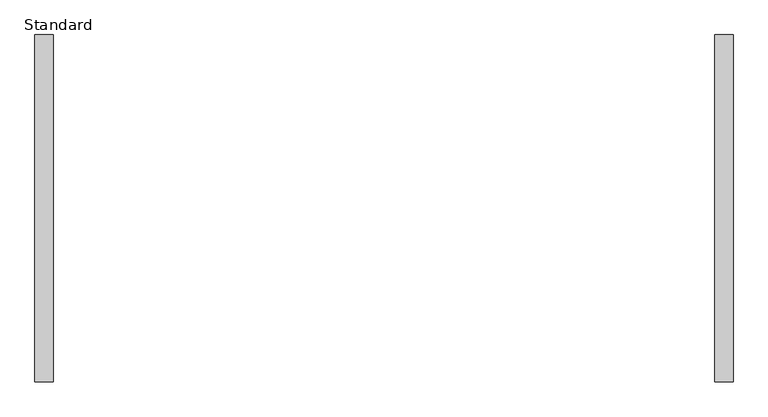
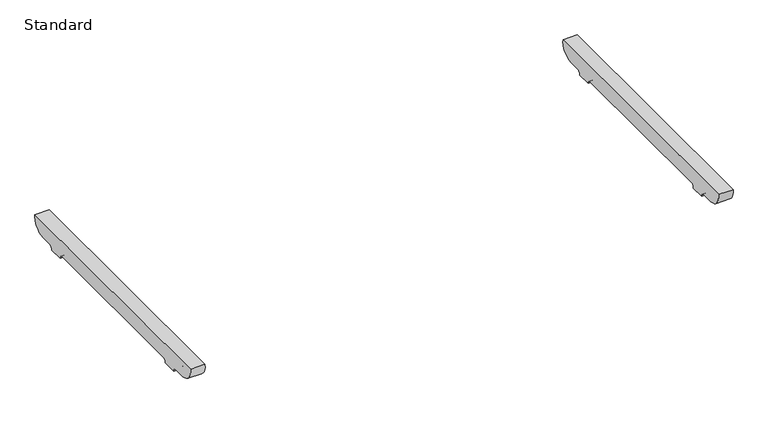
"""IFC4 building model written with IfcOpenShell, lengths in millimetres: furniture geometry, BDG_BossDesign_Tbls_AgentTables4Legs_Nested : Standard."""

from ifc_helpers import new_model, si_unit, point, frame, frame_2d, origin, place, context, project, spatial, polyline, circle_curve, trimmed, segment, composite_curve, outline, extrude, source, transform, mapped, element, save


def standard_55bfc8dd(model_context):
    return source(origin(), model_context, "Body", "SweptSolid", [
        extrude(outline(composite_curve([segment(polyline([(380.5450184, 672.0), (342.7000122, 672.0)]), True, "CONTINUOUS"), segment(trimmed(circle_curve(frame_2d((342.7000122, 660.0)), 12.0), [point((342.7000122, 672.0))], [point((330.7000122, 660.0))], True, "CARTESIAN"), True, "CONTINUOUS"), segment(polyline([(330.7000122, 660.0), (285.7000122, 660.0)]), True, "CONTINUOUS"), segment(trimmed(circle_curve(frame_2d((273.7000122, 660.0)), 12.0), [point((285.7000122, 660.0))], [point((273.7000122, 672.0))], True, "CARTESIAN"), True, "CONTINUOUS"), segment(polyline([(273.7000122, 672.0), (-273.7000122, 672.0)]), True, "CONTINUOUS"), segment(trimmed(circle_curve(frame_2d((-273.7000122, 660.0)), 12.0), [point((-273.7000122, 672.0))], [point((-285.7000122, 660.0))], True, "CARTESIAN"), True, "CONTINUOUS"), segment(polyline([(-285.7000122, 660.0), (-330.7000122, 660.0)]), True, "CONTINUOUS"), segment(trimmed(circle_curve(frame_2d((-342.7000122, 660.0)), 12.0), [point((-330.7000122, 660.0))], [point((-342.7000122, 672.0))], True, "CARTESIAN"), True, "CONTINUOUS"), segment(polyline([(-342.7000122, 672.0), (-380.5450184, 672.0)]), True, "CONTINUOUS"), segment(trimmed(circle_curve(frame_2d((-378.2220439, 716.5514119)), 44.6119324), [point((-380.5450184, 672.0))], [point((-422.5, 722.0))], False, "CARTESIAN"), True, "CONTINUOUS"), segment(polyline([(-422.5, 722.0), (422.5, 722.0)]), True, "CONTINUOUS"), segment(trimmed(circle_curve(frame_2d((378.2220439, 716.5514119)), 44.6119324), [point((422.5, 722.0))], [point((380.5450184, 672.0))], False, "CARTESIAN"), True, "CONTINUOUS")], self_intersect=False)), frame((805.0, 0.0, 0.0), z_axis=(1.0, 0.0, 0.0), x_axis=(0.0, 1.0, 0.0)), (0.0, 0.0, 1.0), 45.0),
        extrude(outline(composite_curve([segment(polyline([(380.5450184, 672.0), (342.7000122, 672.0)]), True, "CONTINUOUS"), segment(trimmed(circle_curve(frame_2d((342.7000122, 660.0)), 12.0), [point((342.7000122, 672.0))], [point((330.7000122, 660.0))], True, "CARTESIAN"), True, "CONTINUOUS"), segment(polyline([(330.7000122, 660.0), (285.7000122, 660.0)]), True, "CONTINUOUS"), segment(trimmed(circle_curve(frame_2d((273.7000122, 660.0)), 12.0), [point((285.7000122, 660.0))], [point((273.7000122, 672.0))], True, "CARTESIAN"), True, "CONTINUOUS"), segment(polyline([(273.7000122, 672.0), (-273.7000122, 672.0)]), True, "CONTINUOUS"), segment(trimmed(circle_curve(frame_2d((-273.7000122, 660.0)), 12.0), [point((-273.7000122, 672.0))], [point((-285.7000122, 660.0))], True, "CARTESIAN"), True, "CONTINUOUS"), segment(polyline([(-285.7000122, 660.0), (-330.7000122, 660.0)]), True, "CONTINUOUS"), segment(trimmed(circle_curve(frame_2d((-342.7000122, 660.0)), 12.0), [point((-330.7000122, 660.0))], [point((-342.7000122, 672.0))], True, "CARTESIAN"), True, "CONTINUOUS"), segment(polyline([(-342.7000122, 672.0), (-380.5450184, 672.0)]), True, "CONTINUOUS"), segment(trimmed(circle_curve(frame_2d((-378.2220439, 716.5514119)), 44.6119324), [point((-380.5450184, 672.0))], [point((-422.5, 722.0))], False, "CARTESIAN"), True, "CONTINUOUS"), segment(polyline([(-422.5, 722.0), (422.5, 722.0)]), True, "CONTINUOUS"), segment(trimmed(circle_curve(frame_2d((378.2220439, 716.5514119)), 44.6119324), [point((422.5, 722.0))], [point((380.5450184, 672.0))], False, "CARTESIAN"), True, "CONTINUOUS")], self_intersect=False)), frame((-850.0, 0.0, 0.0), z_axis=(1.0, 0.0, 0.0), x_axis=(0.0, 1.0, 0.0)), (0.0, 0.0, 1.0), 45.0),
    ])


if __name__ == "__main__":
    model = new_model("IFC4")
    model_context = context("Model", 3, world=origin())
    ifc_project = project(units=[si_unit("LENGTHUNIT", "METRE", prefix="MILLI")], contexts=[model_context])
    site = spatial("IfcSite", under=ifc_project)
    building = spatial("IfcBuilding", under=site)
    placement = place(None, origin())
    standard_shape = standard_55bfc8dd(model_context)
    element("IfcFurniture", 1, ObjectType="BDG_BossDesign_Tbls_AgentTables4Legs_Nested : Standard", at=placement, inside=building, context=model_context, shape_type="MappedRepresentation", body=[
        mapped(standard_shape, transform((0.0, 0.0, 0.0), x_axis=(1.0, 0.0, 0.0), y_axis=(0.0, 1.0, 0.0), z_axis=(0.0, 0.0, 1.0))),
    ])
    save(model, "model.ifc")
